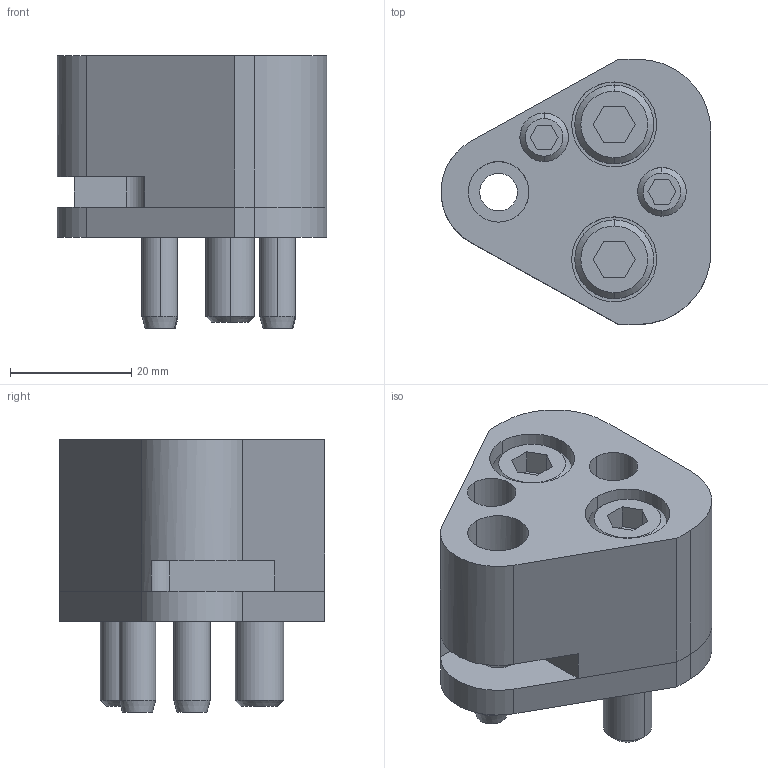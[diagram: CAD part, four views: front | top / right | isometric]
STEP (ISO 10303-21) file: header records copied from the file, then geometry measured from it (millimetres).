
FILE_DESCRIPTION(/* description */ (''),/* implementation_level */ '2;1');
FILE_NAME(/* name */ '3d_25crn-fp10_03150_r00.stp',/* time_stamp */ '2011-01-10T14:17:53+09:00',/* author */ ('MISUMI'),/* organization */ (''),/* preprocessor_version */ 'ST-DEVELOPER v11',/* originating_system */ 'UGS - NX 5.0',/* authorisation */ '');
FILE_SCHEMA (('CONFIG_CONTROL_DESIGN'));
Length unit declared in the file: millimetre
Products named in the file (1): 3d_25crn-fp10_03150_r00
Bounding box: 44.49 x 43.7 x 45 mm (x, y, z)
Volume: 38444 mm3; surface area: 17929.3 mm2
Topology: 8 solids, 8 shells, 156 faces, 358 edges, 231 vertices
Faces by surface type: plane 69, cylinder 61, cone 26
Entity records: 4585 total; most frequent: DIRECTION 815, CARTESIAN_POINT 805, ORIENTED_EDGE 716, EDGE_CURVE 358, AXIS2_PLACEMENT_3D 307, VERTEX_POINT 231, LINE 201, VECTOR 201
